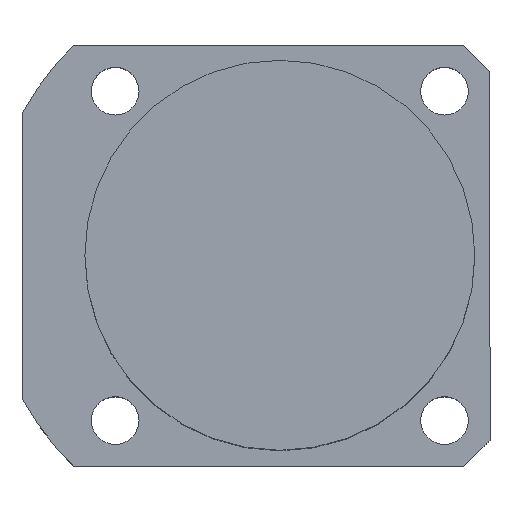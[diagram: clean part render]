
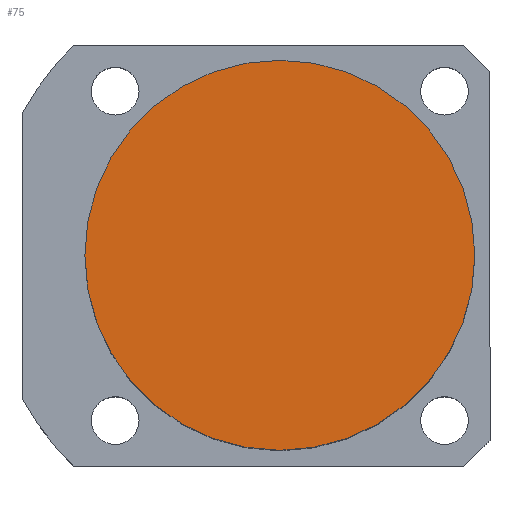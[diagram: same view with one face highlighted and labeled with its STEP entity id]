
A CAD part, top view. The second image highlights one B-rep face of the part: STEP entity #75.
In plain terms, the highlighted planar face has unit normal (0, 0, 1).
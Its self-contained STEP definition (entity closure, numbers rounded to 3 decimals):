
#75 = ADVANCED_FACE ( 'NONE', ( #1085 ), #917, .T. ) ;
#92 = DIRECTION ( 'NONE',  ( 1., 0., 0. ) ) ;
#142 = ORIENTED_EDGE ( 'NONE', *, *, #1557, .T. ) ;
#222 = CIRCLE ( 'NONE', #1180, 45. ) ;
#521 = DIRECTION ( 'NONE',  ( 1., 0., 0. ) ) ;
#638 = CIRCLE ( 'NONE', #734, 45. ) ;
#648 = DIRECTION ( 'NONE',  ( 1., 0., 0. ) ) ;
#678 = CARTESIAN_POINT ( 'NONE',  ( 45., 0., 94.5 ) ) ;
#734 = AXIS2_PLACEMENT_3D ( 'NONE', #1385, #1119, #521 ) ;
#748 = VERTEX_POINT ( 'NONE', #1758 ) ;
#780 = EDGE_CURVE ( 'NONE', #748, #1699, #638, .T. ) ;
#794 = EDGE_LOOP ( 'NONE', ( #860, #142 ) ) ;
#860 = ORIENTED_EDGE ( 'NONE', *, *, #780, .T. ) ;
#872 = AXIS2_PLACEMENT_3D ( 'NONE', #1196, #1350, #648 ) ;
#917 = PLANE ( 'NONE',  #872 ) ;
#1085 = FACE_OUTER_BOUND ( 'NONE', #794, .T. ) ;
#1119 = DIRECTION ( 'NONE',  ( 0., 0., 1. ) ) ;
#1180 = AXIS2_PLACEMENT_3D ( 'NONE', #1727, #1347, #92 ) ;
#1196 = CARTESIAN_POINT ( 'NONE',  ( 0., 0., 94.5 ) ) ;
#1347 = DIRECTION ( 'NONE',  ( 0., 0., 1. ) ) ;
#1350 = DIRECTION ( 'NONE',  ( 0., 0., 1. ) ) ;
#1385 = CARTESIAN_POINT ( 'NONE',  ( 0., 0., 94.5 ) ) ;
#1557 = EDGE_CURVE ( 'NONE', #1699, #748, #222, .T. ) ;
#1699 = VERTEX_POINT ( 'NONE', #678 ) ;
#1727 = CARTESIAN_POINT ( 'NONE',  ( 0., 0., 94.5 ) ) ;
#1758 = CARTESIAN_POINT ( 'NONE',  ( -45., 0., 94.5 ) ) ;
